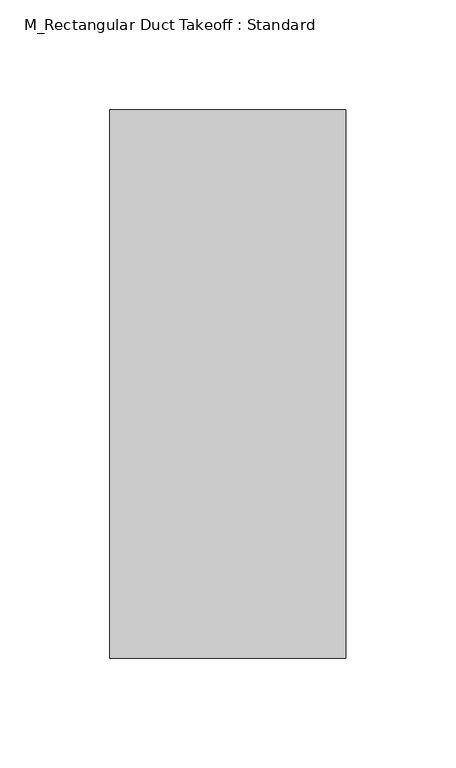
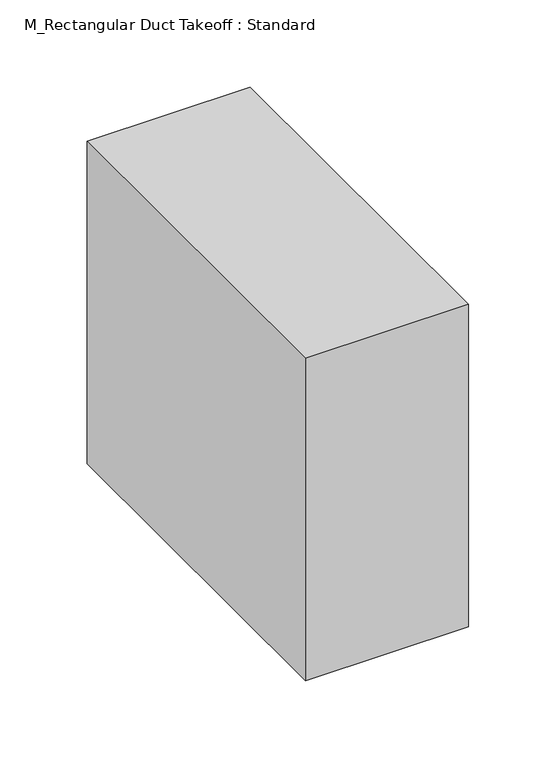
"""IFC4 building model written with IfcOpenShell, lengths in millimetres: duct fitting geometry, M_Rectangular Duct Takeoff : Standard."""

from ifc_helpers import new_model, si_unit, frame, origin, place, context, project, spatial, polyline, outline, extrude, source, transform, mapped, element, save


def m_rectangular_duct_takeoff_standard_55df6f18(model_context):
    return source(origin(), model_context, "Body", "SweptSolid", [
        extrude(outline(polyline([(-6.096, 125.0), (101.6, 125.0), (101.6, -125.0), (-6.096, -125.0), (-6.096, 125.0)])), frame((0.0, 0.0, -112.5), z_axis=(0.0, 0.0, 1.0), x_axis=(1.0, 0.0, 0.0)), (0.0, 0.0, 1.0), 225.0),
        extrude(outline(polyline([(-6.096, 125.0), (101.6, 125.0), (101.6, -125.0), (-6.096, -125.0), (-6.096, 125.0)])), frame((0.0, 0.0, -112.5), z_axis=(0.0, 0.0, 1.0), x_axis=(1.0, 0.0, 0.0)), (0.0, 0.0, 1.0), 225.0),
        extrude(outline(polyline([(-6.096, 125.0), (101.6, 125.0), (101.6, -125.0), (-6.096, -125.0), (-6.096, 125.0)])), frame((0.0, 0.0, -112.5), z_axis=(0.0, 0.0, 1.0), x_axis=(1.0, 0.0, 0.0)), (0.0, 0.0, 1.0), 225.0),
    ])


if __name__ == "__main__":
    model = new_model("IFC4")
    model_context = context("Model", 3, world=origin())
    ifc_project = project(units=[si_unit("LENGTHUNIT", "METRE", prefix="MILLI")], contexts=[model_context])
    site = spatial("IfcSite", under=ifc_project)
    building = spatial("IfcBuilding", under=site)
    placement = place(None, origin())
    m_rectangular_duct_takeoff_standard_shape = m_rectangular_duct_takeoff_standard_55df6f18(model_context)
    element("IfcDuctFitting", 1, ObjectType="M_Rectangular Duct Takeoff : Standard", at=placement, inside=building, context=model_context, shape_type="MappedRepresentation", body=[
        mapped(m_rectangular_duct_takeoff_standard_shape, transform((0.0, 0.0, 0.0), x_axis=(1.0, 0.0, 0.0), y_axis=(0.0, 1.0, 0.0), z_axis=(0.0, 0.0, 1.0))),
    ])
    save(model, "model.ifc")
